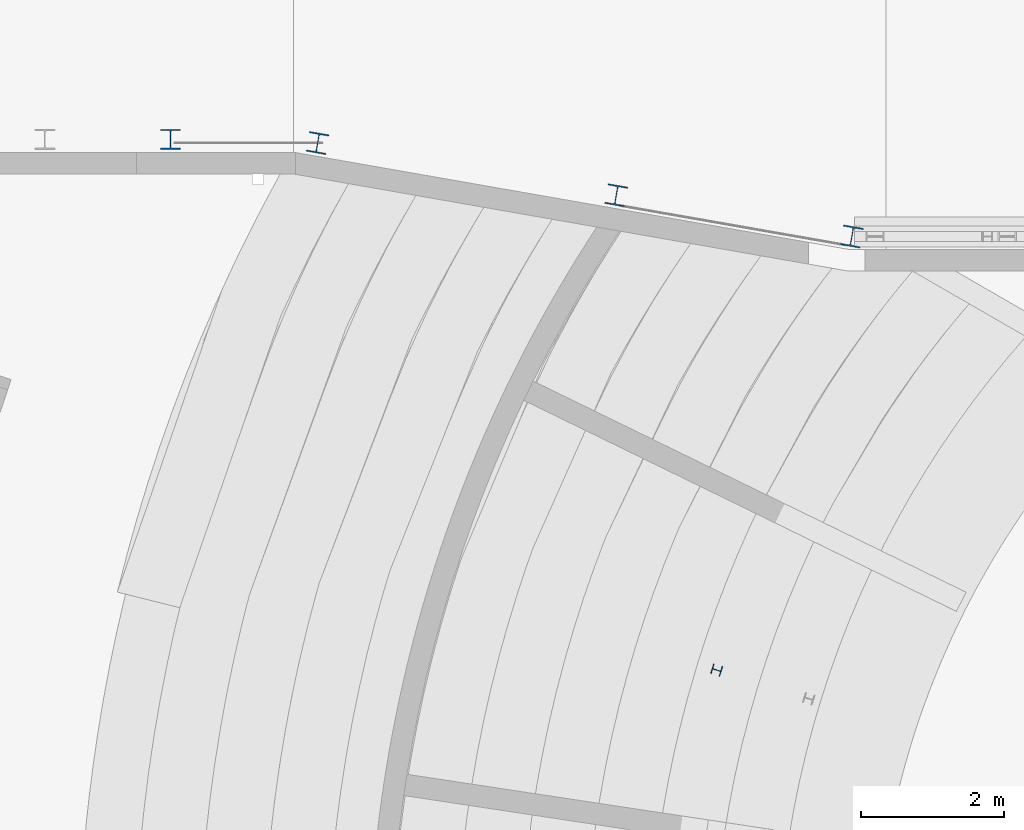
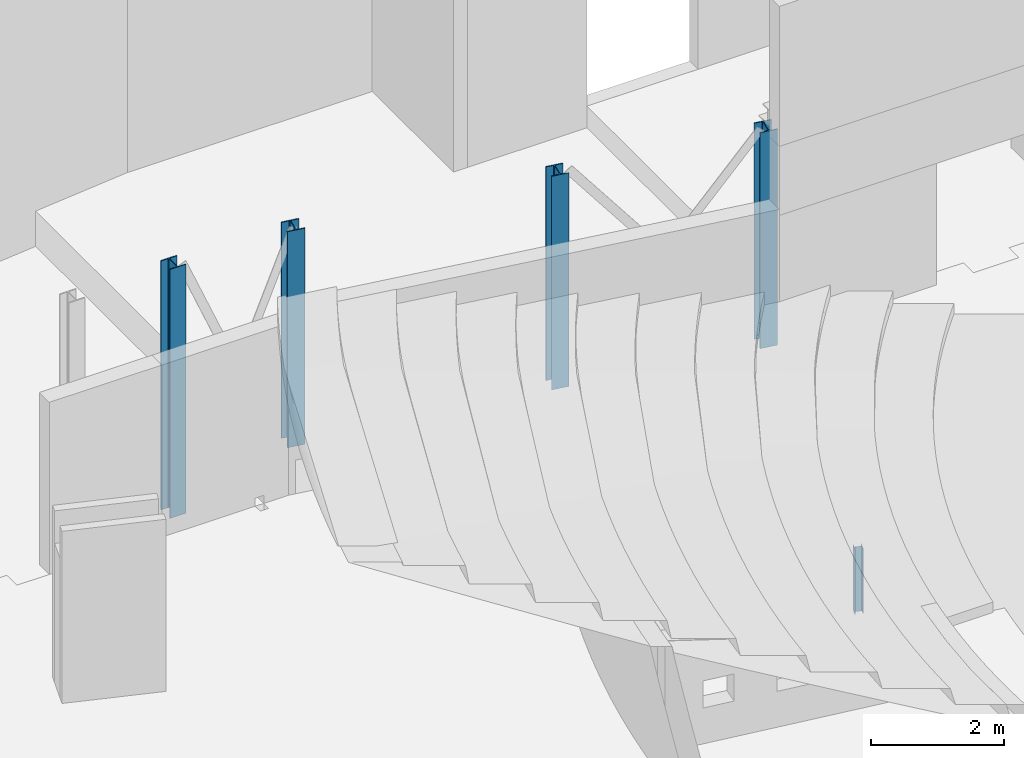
# One storey, part 6 of 34: 5 columns.
"""IFC2X3 building model written with IfcOpenShell, lengths in millimetres."""

from ifc_helpers import new_model, entity, si_unit, converted_unit, derived_unit, direction, frame, frame_2d, origin, place, context, subcontext, project, spatial, polyline, circle_curve, parameter, trimmed, segment, composite_curve, outline, extrude, source, transform, mapped, material, type_object, type_shapes, element, save


model = new_model("IFC2X3")

# Units and contexts
model_context = context("Model", 3, precision=0.01, world=origin(), true_north=direction((6.12303176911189e-17, 1.0)))
body_context = subcontext(model_context, "Body", "Model", "MODEL_VIEW")
ifc_project = project(units=[si_unit("LENGTHUNIT", "METRE", prefix="MILLI"), si_unit("AREAUNIT", "SQUARE_METRE", prefix="MILLI"), si_unit("VOLUMEUNIT", "CUBIC_METRE"), converted_unit("PLANEANGLEUNIT", "DEGREE", entity("IfcRatioMeasure", 0.0174532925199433), si_unit("PLANEANGLEUNIT", "RADIAN"), dimensions=[0, 0, 0, 0, 0, 0, 0]), si_unit("MASSUNIT", "GRAM", prefix="KILO"), derived_unit("MASSDENSITYUNIT", [(si_unit("MASSUNIT", "GRAM", prefix="KILO"), 1), (si_unit("LENGTHUNIT", "METRE"), -3)]), derived_unit("MOMENTOFINERTIAUNIT", [(si_unit("LENGTHUNIT", "METRE"), 4)]), si_unit("TIMEUNIT", "SECOND"), si_unit("FREQUENCYUNIT", "HERTZ"), si_unit("THERMODYNAMICTEMPERATUREUNIT", "DEGREE_CELSIUS"), derived_unit("THERMALTRANSMITTANCEUNIT", [(si_unit("MASSUNIT", "GRAM", prefix="KILO"), 1), (si_unit("THERMODYNAMICTEMPERATUREUNIT", "KELVIN"), -1), (si_unit("TIMEUNIT", "SECOND"), -3)]), derived_unit("VOLUMETRICFLOWRATEUNIT", [(si_unit("LENGTHUNIT", "METRE"), 3), (si_unit("TIMEUNIT", "SECOND"), -1)]), si_unit("ELECTRICCURRENTUNIT", "AMPERE"), si_unit("ELECTRICVOLTAGEUNIT", "VOLT"), si_unit("POWERUNIT", "WATT"), si_unit("FORCEUNIT", "NEWTON", prefix="KILO"), si_unit("ILLUMINANCEUNIT", "LUX"), si_unit("LUMINOUSFLUXUNIT", "LUMEN"), si_unit("LUMINOUSINTENSITYUNIT", "CANDELA"), derived_unit("USERDEFINED", [(si_unit("MASSUNIT", "GRAM", prefix="KILO"), -1), (si_unit("LENGTHUNIT", "METRE"), -2), (si_unit("TIMEUNIT", "SECOND"), 3), (si_unit("LUMINOUSFLUXUNIT", "LUMEN"), 1)]), derived_unit("LINEARVELOCITYUNIT", [(si_unit("LENGTHUNIT", "METRE"), 1), (si_unit("TIMEUNIT", "SECOND"), -1)]), si_unit("PRESSUREUNIT", "PASCAL"), derived_unit("USERDEFINED", [(si_unit("LENGTHUNIT", "METRE"), -2), (si_unit("MASSUNIT", "GRAM", prefix="KILO"), 1), (si_unit("TIMEUNIT", "SECOND"), -2)]), derived_unit("LINEARFORCEUNIT", [(si_unit("MASSUNIT", "GRAM", prefix="KILO"), 1), (si_unit("LENGTHUNIT", "METRE"), 1), (si_unit("TIMEUNIT", "SECOND"), -2), (si_unit("LENGTHUNIT", "METRE"), -1)]), derived_unit("PLANARFORCEUNIT", [(si_unit("MASSUNIT", "GRAM", prefix="KILO"), 1), (si_unit("LENGTHUNIT", "METRE"), 1), (si_unit("TIMEUNIT", "SECOND"), -2), (si_unit("LENGTHUNIT", "METRE"), -2)])], contexts=[model_context])

# Site, building, storey
site_placement = place(None, origin())
site = spatial("IfcSite", under=ifc_project, at=site_placement, Name="Theater aan de Parade", CompositionType="ELEMENT")
building_placement = place(site_placement, origin())
building = spatial("IfcBuilding", under=site, at=building_placement, Name="Theater aan de Parade", CompositionType="ELEMENT")
storey_placement = place(building_placement, frame((0.0, 0.0, 3.49116848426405e-09)))
storey = spatial("IfcBuildingStorey", under=building, at=storey_placement, Name="00 begane grond", CompositionType="ELEMENT", Elevation=3.49116848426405e-09)

# Columns
ifc_material_1 = material(Name="00_PBT_MAT_staal")
column_type_1 = type_object("IfcColumnType", Name="28_PBT_SC_staal_H-profiel:HE140A_bestaand", PredefinedType="COLUMN", material=ifc_material_1)
shared_shape_1 = source(origin(), body_context, "Body", "SweptSolid", [
    extrude(outline(composite_curve([segment(polyline([(58.0, -70.0), (66.5000000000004, -70.0)]), True, "CONTINUOUS"), segment(polyline([(66.5000000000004, -70.0), (66.5000000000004, 70.0)]), True, "CONTINUOUS"), segment(polyline([(66.5000000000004, 70.0), (58.0, 70.0)]), True, "CONTINUOUS"), segment(polyline([(58.0, 70.0), (58.0, 14.75)]), True, "CONTINUOUS"), segment(trimmed(circle_curve(frame_2d((46.0, 14.75), x_axis=(1.0, 0.0)), 12.0), [parameter(269.999999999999)], [parameter(0.0)], True, "PARAMETER"), False, "CONTINUOUS"), segment(polyline([(46.0, 2.75000000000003), (-46.0, 2.75000000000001)]), True, "CONTINUOUS"), segment(trimmed(circle_curve(frame_2d((-46.0, 14.75), x_axis=(0.0, -1.0)), 12.0), [parameter(270.0)], [parameter(0.0)], True, "PARAMETER"), False, "CONTINUOUS"), segment(polyline([(-58.0, 14.75), (-58.0, 70.0)]), True, "CONTINUOUS"), segment(polyline([(-58.0, 70.0), (-66.4999999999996, 70.0)]), True, "CONTINUOUS"), segment(polyline([(-66.4999999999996, 70.0), (-66.4999999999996, -70.0)]), True, "CONTINUOUS"), segment(polyline([(-66.4999999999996, -70.0), (-58.0, -70.0)]), True, "CONTINUOUS"), segment(polyline([(-58.0, -70.0), (-58.0, -14.75)]), True, "CONTINUOUS"), segment(trimmed(circle_curve(frame_2d((-46.0, -14.75), x_axis=(-1.0, 0.0)), 12.0), [parameter(270.0)], [parameter(0.0)], True, "PARAMETER"), False, "CONTINUOUS"), segment(polyline([(-46.0, -2.74999999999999), (46.0, -2.74999999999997)]), True, "CONTINUOUS"), segment(trimmed(circle_curve(frame_2d((46.0, -14.75), x_axis=(0.0, 1.0)), 12.0), [parameter(270.0)], [parameter(0.0)], True, "PARAMETER"), False, "CONTINUOUS"), segment(polyline([(58.0, -14.75), (58.0, -70.0)]), True, "CONTINUOUS")], self_intersect=False)), frame((0.0, 0.0, -60.0), z_axis=(0.0, 0.0, 1.0), x_axis=(0.0, -1.0, 0.0)), (0.0, 0.0, 1.0), 1194.99999999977),
])
type_shapes(column_type_1, [shared_shape_1])
column_1_placement = place(storey_placement, frame((57590.8949987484, 36966.5276444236, -3.49116848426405e-09), z_axis=(0.0, 0.0, 1.0), x_axis=(0.297378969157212, 0.954759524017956, 0.0)))
element("IfcColumn", 1, at=column_1_placement, inside=storey, type_object=column_type_1, material=ifc_material_1, Name="28_PBT_SC_staal_H-profiel:HE140A_bestaand", ObjectType="28_PBT_SC_staal_H-profiel:HE140A_bestaand", context=body_context, shape_type="MappedRepresentation", body=[
    mapped(shared_shape_1, transform((0.0, 0.0, 0.0), scale=1.0)),
])
ifc_material_2 = material(Name="00_PBT_MAT_staal_S355")
column_type_2 = type_object("IfcColumnType", Name="28_PBT_SC_staal_H-profiel:S355_HE280B", PredefinedType="COLUMN", material=ifc_material_2)
shared_shape_2 = source(origin(), body_context, "Body", "SweptSolid", [
    extrude(outline(composite_curve([segment(polyline([(122.0, -140.0), (140.0, -140.0)]), True, "CONTINUOUS"), segment(polyline([(140.0, -140.0), (140.0, 140.0)]), True, "CONTINUOUS"), segment(polyline([(140.0, 140.0), (122.0, 140.0)]), True, "CONTINUOUS"), segment(polyline([(122.0, 140.0), (122.0, 29.2500000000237)]), True, "CONTINUOUS"), segment(trimmed(circle_curve(frame_2d((98.0, 29.2500000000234), x_axis=(1.0, 0.0)), 24.000000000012), [parameter(270.000000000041)], [parameter(0.0)], True, "PARAMETER"), False, "CONTINUOUS"), segment(polyline([(98.0, 5.25000000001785), (-98.0, 5.25000000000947)]), True, "CONTINUOUS"), segment(trimmed(circle_curve(frame_2d((-98.0, 29.2500000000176), x_axis=(0.0, -1.0)), 24.000000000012), [parameter(270.000000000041)], [parameter(0.0)], True, "PARAMETER"), False, "CONTINUOUS"), segment(polyline([(-122.0, 29.2500000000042), (-122.0, 140.0)]), True, "CONTINUOUS"), segment(polyline([(-122.0, 140.0), (-140.0, 140.0)]), True, "CONTINUOUS"), segment(polyline([(-140.0, 140.0), (-140.0, -140.0)]), True, "CONTINUOUS"), segment(polyline([(-140.0, -140.0), (-122.0, -140.0)]), True, "CONTINUOUS"), segment(polyline([(-122.0, -140.0), (-122.0, -29.2500000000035)]), True, "CONTINUOUS"), segment(trimmed(circle_curve(frame_2d((-98.0, -29.2500000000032), x_axis=(-1.0, 0.0)), 24.000000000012), [parameter(270.000000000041)], [parameter(0.0)], True, "PARAMETER"), False, "CONTINUOUS"), segment(polyline([(-98.0, -5.24999999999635), (98.0, -5.24999999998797)]), True, "CONTINUOUS"), segment(trimmed(circle_curve(frame_2d((98.0, -29.2499999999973), x_axis=(0.0, 1.0)), 24.000000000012), [parameter(270.000000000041)], [parameter(0.0)], True, "PARAMETER"), False, "CONTINUOUS"), segment(polyline([(122.0, -29.249999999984), (122.0, -140.0)]), True, "CONTINUOUS")], self_intersect=False)), frame((56185.6044607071, 43612.1397766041, 605.0), z_axis=(0.0, 0.0, 1.0), x_axis=(0.172380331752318, 0.985030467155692, 0.0)), (0.0, 0.0, 1.0), 3934.99999999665),
])
type_shapes(column_type_2, [shared_shape_2])
column_2_placement = place(storey_placement, frame((0.0, 0.0, -3.49116848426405e-09)))
element("IfcColumn", 2, at=column_2_placement, inside=storey, type_object=column_type_2, material=ifc_material_2, Name="28_PBT_SC_staal_H-profiel:S355_HE280B", ObjectType="28_PBT_SC_staal_H-profiel:S355_HE280B", context=body_context, shape_type="MappedRepresentation", body=[
    mapped(shared_shape_2, transform((0.0, 0.0, 0.0), scale=1.0)),
])
column_type_3 = type_object("IfcColumnType", Name="28_PBT_SC_staal_H-profiel:S355_HE280B", PredefinedType="COLUMN", material=ifc_material_2)
shared_shape_3 = source(origin(), body_context, "Body", "SweptSolid", [
    extrude(outline(composite_curve([segment(polyline([(122.0, -140.0), (140.0, -140.0)]), True, "CONTINUOUS"), segment(polyline([(140.0, -140.0), (140.0, 140.0)]), True, "CONTINUOUS"), segment(polyline([(140.0, 140.0), (122.0, 140.0)]), True, "CONTINUOUS"), segment(polyline([(122.0, 140.0), (122.0, 29.25)]), True, "CONTINUOUS"), segment(trimmed(circle_curve(frame_2d((98.0, 29.25), x_axis=(1.0, 0.0)), 23.9999999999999), [parameter(269.999999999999)], [parameter(0.0)], True, "PARAMETER"), False, "CONTINUOUS"), segment(polyline([(98.0, 5.25000000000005), (-98.0, 5.25)]), True, "CONTINUOUS"), segment(trimmed(circle_curve(frame_2d((-98.0, 29.25), x_axis=(0.0, -1.0)), 24.0), [parameter(270.0)], [parameter(0.0)], True, "PARAMETER"), False, "CONTINUOUS"), segment(polyline([(-122.0, 29.2499999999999), (-122.0, 140.0)]), True, "CONTINUOUS"), segment(polyline([(-122.0, 140.0), (-140.0, 140.0)]), True, "CONTINUOUS"), segment(polyline([(-140.0, 140.0), (-140.0, -140.0)]), True, "CONTINUOUS"), segment(polyline([(-140.0, -140.0), (-122.0, -140.0)]), True, "CONTINUOUS"), segment(polyline([(-122.0, -140.0), (-122.0, -29.2500000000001)]), True, "CONTINUOUS"), segment(trimmed(circle_curve(frame_2d((-98.0, -29.25), x_axis=(-1.0, 0.0)), 24.0), [parameter(270.0)], [parameter(0.0)], True, "PARAMETER"), False, "CONTINUOUS"), segment(polyline([(-98.0, -5.25), (98.0, -5.24999999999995)]), True, "CONTINUOUS"), segment(trimmed(circle_curve(frame_2d((98.0, -29.2499999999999), x_axis=(0.0, 1.0)), 23.9999999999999), [parameter(270.0)], [parameter(0.0)], True, "PARAMETER"), False, "CONTINUOUS"), segment(polyline([(122.0, -29.25), (122.0, -140.0)]), True, "CONTINUOUS")], self_intersect=False)), frame((0.0, 0.0, 560.0), z_axis=(0.0, 0.0, 1.0), x_axis=(0.0, -1.0, 0.0)), (0.0, 0.0, 1.0), 3979.99999999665),
])
type_shapes(column_type_3, [shared_shape_3])
column_3_placement = place(storey_placement, frame((59483.5460413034, 43035.0, -3.49116848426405e-09), z_axis=(0.0, 0.0, 1.0), x_axis=(0.985030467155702, -0.172380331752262, 0.0)))
element("IfcColumn", 3, at=column_3_placement, inside=storey, type_object=column_type_3, material=ifc_material_2, Name="28_PBT_SC_staal_H-profiel:S355_HE280B", ObjectType="28_PBT_SC_staal_H-profiel:S355_HE280B", context=body_context, shape_type="MappedRepresentation", body=[
    mapped(shared_shape_3, transform((0.0, 0.0, 0.0), scale=1.0)),
])
column_type_4 = type_object("IfcColumnType", Name="28_PBT_SC_staal_H-profiel:S355_HE280B", PredefinedType="COLUMN", material=ifc_material_2)
shared_shape_4 = source(origin(), body_context, "Body", "SweptSolid", [
    extrude(outline(composite_curve([segment(polyline([(122.0, -140.0), (140.0, -140.0)]), True, "CONTINUOUS"), segment(polyline([(140.0, -140.0), (140.0, 140.0)]), True, "CONTINUOUS"), segment(polyline([(140.0, 140.0), (122.0, 140.0)]), True, "CONTINUOUS"), segment(polyline([(122.0, 140.0), (122.0, 29.2500000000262)]), True, "CONTINUOUS"), segment(trimmed(circle_curve(frame_2d((98.0, 29.250000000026), x_axis=(1.0, 0.0)), 24.000000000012), [parameter(270.000000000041)], [parameter(0.0)], True, "PARAMETER"), False, "CONTINUOUS"), segment(polyline([(98.0, 5.25000000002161), (-98.0, 5.25000000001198)]), True, "CONTINUOUS"), segment(trimmed(circle_curve(frame_2d((-98.0, 29.2500000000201), x_axis=(0.0, -1.0)), 24.000000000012), [parameter(270.000000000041)], [parameter(0.0)], True, "PARAMETER"), False, "CONTINUOUS"), segment(polyline([(-122.0, 29.2500000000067), (-122.0, 140.0)]), True, "CONTINUOUS"), segment(polyline([(-122.0, 140.0), (-140.0, 140.0)]), True, "CONTINUOUS"), segment(polyline([(-140.0, 140.0), (-140.0, -140.0)]), True, "CONTINUOUS"), segment(polyline([(-140.0, -140.0), (-122.0, -140.0)]), True, "CONTINUOUS"), segment(polyline([(-122.0, -140.0), (-122.0, -29.250000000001)]), True, "CONTINUOUS"), segment(trimmed(circle_curve(frame_2d((-98.0, -29.2500000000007), x_axis=(-1.0, 0.0)), 24.000000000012), [parameter(270.000000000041)], [parameter(0.0)], True, "PARAMETER"), False, "CONTINUOUS"), segment(polyline([(-98.0, -5.24999999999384), (98.0, -5.24999999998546)]), True, "CONTINUOUS"), segment(trimmed(circle_curve(frame_2d((98.0, -29.2499999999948), x_axis=(0.0, 1.0)), 24.000000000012), [parameter(270.000000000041)], [parameter(0.0)], True, "PARAMETER"), False, "CONTINUOUS"), segment(polyline([(122.0, -29.2499999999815), (122.0, -140.0)]), True, "CONTINUOUS")], self_intersect=False)), frame((52005.6821149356, 44343.6261871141, 560.0), z_axis=(0.0, 0.0, 1.0), x_axis=(0.172380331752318, 0.985030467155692, 0.0)), (0.0, 0.0, 1.0), 3979.99999999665),
])
type_shapes(column_type_4, [shared_shape_4])
column_4_placement = place(storey_placement, frame((0.0, 0.0, -3.49116848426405e-09)))
element("IfcColumn", 4, at=column_4_placement, inside=storey, type_object=column_type_4, material=ifc_material_2, Name="28_PBT_SC_staal_H-profiel:S355_HE280B", ObjectType="28_PBT_SC_staal_H-profiel:S355_HE280B", context=body_context, shape_type="MappedRepresentation", body=[
    mapped(shared_shape_4, transform((0.0, 0.0, 0.0), scale=1.0)),
])
column_type_5 = type_object("IfcColumnType", Name="28_PBT_SC_staal_H-profiel:S355_HE280B", PredefinedType="COLUMN", material=ifc_material_2)
shared_shape_5 = source(origin(), body_context, "Body", "SweptSolid", [
    extrude(outline(composite_curve([segment(polyline([(122.0, -140.0), (140.0, -140.0)]), True, "CONTINUOUS"), segment(polyline([(140.0, -140.0), (140.0, 140.0)]), True, "CONTINUOUS"), segment(polyline([(140.0, 140.0), (122.0, 140.0)]), True, "CONTINUOUS"), segment(polyline([(122.0, 140.0), (122.0, 29.25)]), True, "CONTINUOUS"), segment(trimmed(circle_curve(frame_2d((98.0, 29.2500000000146), x_axis=(1.0, 0.0)), 24.0000000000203), [parameter(270.000000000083)], [parameter(0.0)], True, "PARAMETER"), False, "CONTINUOUS"), segment(polyline([(98.0, 5.25), (-98.0, 5.25)]), True, "CONTINUOUS"), segment(trimmed(circle_curve(frame_2d((-98.0, 29.2500000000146), x_axis=(0.0, -1.0)), 24.0000000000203), [parameter(270.000000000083)], [parameter(0.0)], True, "PARAMETER"), False, "CONTINUOUS"), segment(polyline([(-122.0, 29.2500000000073), (-122.0, 140.0)]), True, "CONTINUOUS"), segment(polyline([(-122.0, 140.0), (-140.0, 140.0)]), True, "CONTINUOUS"), segment(polyline([(-140.0, 140.0), (-140.0, -140.0)]), True, "CONTINUOUS"), segment(polyline([(-140.0, -140.0), (-122.0, -140.0)]), True, "CONTINUOUS"), segment(polyline([(-122.0, -140.0), (-122.0, -29.25)]), True, "CONTINUOUS"), segment(trimmed(circle_curve(frame_2d((-98.0, -29.2500000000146), x_axis=(-1.0, 0.0)), 24.0000000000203), [parameter(270.000000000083)], [parameter(0.0)], True, "PARAMETER"), False, "CONTINUOUS"), segment(polyline([(-98.0, -5.24999999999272), (98.0, -5.24999999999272)]), True, "CONTINUOUS"), segment(trimmed(circle_curve(frame_2d((98.0, -29.2500000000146), x_axis=(0.0, 1.0)), 24.0000000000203), [parameter(270.000000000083)], [parameter(0.0)], True, "PARAMETER"), False, "CONTINUOUS"), segment(polyline([(122.0, -29.25), (122.0, -140.0)]), True, "CONTINUOUS")], self_intersect=False)), frame((49946.4713059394, 44395.0, -45.0), z_axis=(0.0, 0.0, 1.0), x_axis=(0.0, -1.0, 0.0)), (0.0, 0.0, 1.0), 4584.99999999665),
])
type_shapes(column_type_5, [shared_shape_5])
column_5_placement = place(storey_placement, frame((0.0, 0.0, -3.49116848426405e-09)))
element("IfcColumn", 5, at=column_5_placement, inside=storey, type_object=column_type_5, material=ifc_material_2, Name="28_PBT_SC_staal_H-profiel:S355_HE280B", ObjectType="28_PBT_SC_staal_H-profiel:S355_HE280B", context=body_context, shape_type="MappedRepresentation", body=[
    mapped(shared_shape_5, transform((0.0, 0.0, 0.0), scale=1.0)),
])

save(model, "model.ifc")
